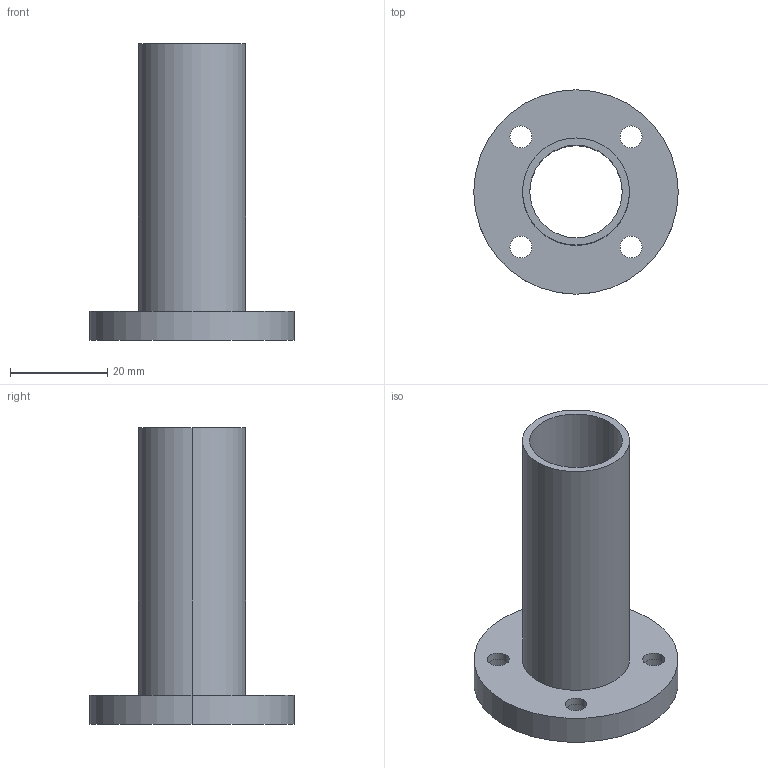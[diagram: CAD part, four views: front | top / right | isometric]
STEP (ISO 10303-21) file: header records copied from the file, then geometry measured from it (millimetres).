
FILE_DESCRIPTION (( 'STEP AP214' ), '1' );
FILE_NAME ('Rundflansch LMEF-12L.step', '2020-03-04T13:13:31', ( '' ), ( '' ), 'SwSTEP 2.0', 'SolidWorks 2019', '' );
FILE_SCHEMA (( 'AUTOMOTIVE_DESIGN' ));
Length unit declared in the file: millimetre
Products named in the file (1): Rundflansch LMEF-12L
Bounding box: 42 x 42 x 61 mm (x, y, z)
Volume: 10938.2 mm3; surface area: 10843.5 mm2
Topology: 1 solids, 1 shells, 29 faces, 66 edges, 44 vertices
Faces by surface type: cylinder 22, plane 7
Entity records: 898 total; most frequent: DIRECTION 170, CARTESIAN_POINT 140, ORIENTED_EDGE 132, AXIS2_PLACEMENT_3D 74, EDGE_CURVE 66, CIRCLE 44, EDGE_LOOP 44, VERTEX_POINT 44
